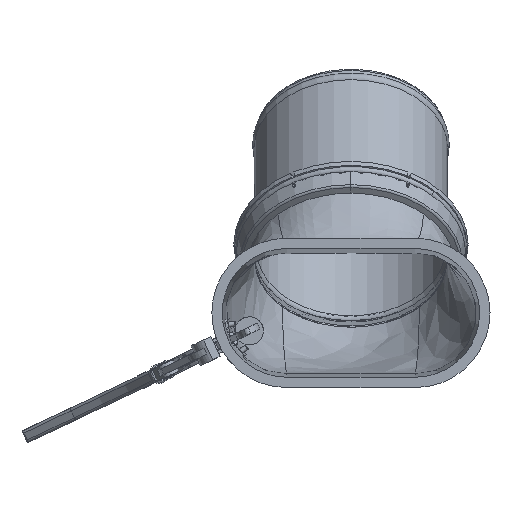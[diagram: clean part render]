
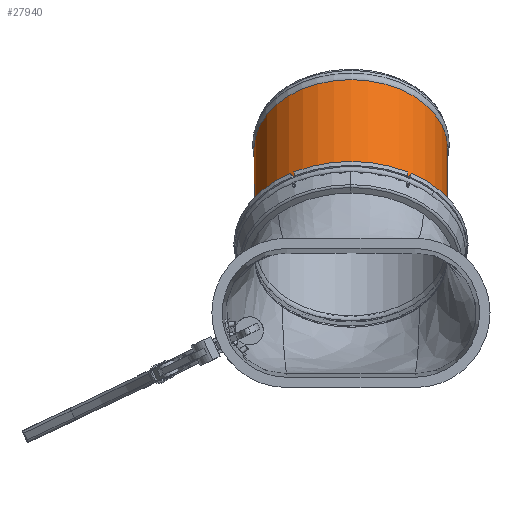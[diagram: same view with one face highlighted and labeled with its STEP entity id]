
A CAD part, top view. The second image highlights one B-rep face of the part: STEP entity #27940.
In plain terms, the highlighted cylindrical face has radius 75 mm (diameter 150 mm), a partial arc.
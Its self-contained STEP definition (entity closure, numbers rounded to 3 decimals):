
#25959=CARTESIAN_POINT('',(0.,121.859,0.));
#25960=DIRECTION('',(0.,-1.,0.));
#25961=DIRECTION('',(1.,0.,0.));
#25962=AXIS2_PLACEMENT_3D('',#25959,#25960,#25961);
#25969=DIRECTION('',(0.,1.,0.));
#25970=VECTOR('',#25969,110.834);
#25971=CARTESIAN_POINT('',(75.,11.025,0.));
#25972=LINE('',#25971,#25970);
#25973=CARTESIAN_POINT('',(0.,11.025,0.));
#25974=DIRECTION('',(0.,-1.,0.));
#25975=DIRECTION('',(1.,0.,0.));
#25976=AXIS2_PLACEMENT_3D('',#25973,#25974,#25975);
#25978=DIRECTION('',(0.,1.,0.));
#25979=VECTOR('',#25978,110.834);
#25980=CARTESIAN_POINT('',(-75.,11.025,0.));
#25981=LINE('',#25980,#25979);
#26207=CARTESIAN_POINT('',(75.,11.025,0.));
#26208=VERTEX_POINT('',#26207);
#26215=CARTESIAN_POINT('',(-75.,11.025,0.));
#26216=VERTEX_POINT('',#26215);
#26223=CARTESIAN_POINT('',(75.,121.859,0.));
#26225=VERTEX_POINT('',#26223);
#26231=CARTESIAN_POINT('',(-75.,121.859,0.));
#26233=VERTEX_POINT('',#26231);
#27926=CARTESIAN_POINT('',(0.,0.,0.));
#27927=DIRECTION('',(0.,1.,0.));
#27928=DIRECTION('',(1.,0.,0.));
#27929=AXIS2_PLACEMENT_3D('',#27926,#27927,#27928);
#27930=CYLINDRICAL_SURFACE('',#27929,75.);
#27932=ORIENTED_EDGE('',*,*,#27931,.F.);
#27934=ORIENTED_EDGE('',*,*,#27933,.T.);
#27936=ORIENTED_EDGE('',*,*,#27935,.T.);
#27937=ORIENTED_EDGE('',*,*,#27919,.F.);
#27938=EDGE_LOOP('',(#27932,#27934,#27936,#27937));
#27939=FACE_OUTER_BOUND('',#27938,.F.);
#25963=CIRCLE('',#25962,75.);
#25977=CIRCLE('',#25976,75.);
#27919=EDGE_CURVE('',#26225,#26233,#25963,.T.);
#27931=EDGE_CURVE('',#26208,#26225,#25972,.T.);
#27933=EDGE_CURVE('',#26208,#26216,#25977,.T.);
#27935=EDGE_CURVE('',#26216,#26233,#25981,.T.);
#27940=ADVANCED_FACE('',(#27939),#27930,.T.);
